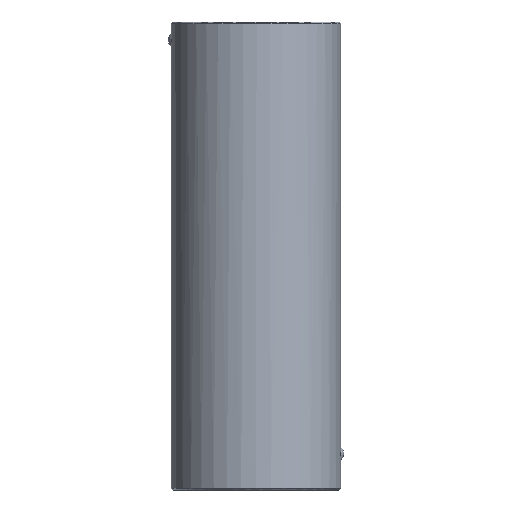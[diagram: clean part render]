
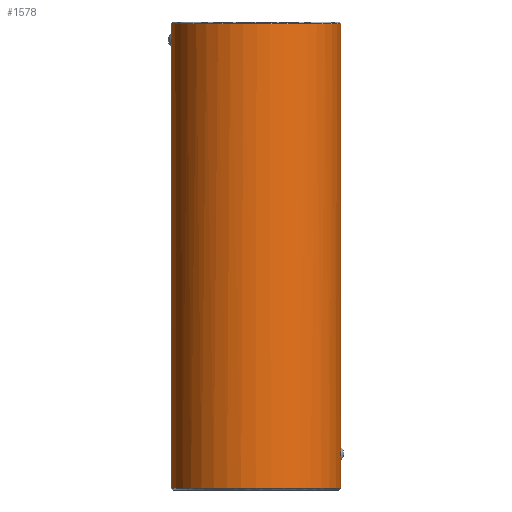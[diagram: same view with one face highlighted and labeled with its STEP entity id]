
A CAD part, front view. The second image highlights one B-rep face of the part: STEP entity #1578.
In plain terms, the highlighted cylindrical face has radius 14.5 mm (diameter 29 mm), a partial arc.
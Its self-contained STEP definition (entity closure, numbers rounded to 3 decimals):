
#1348=CARTESIAN_POINT('Vertex',(-14.5,0.,0.3)) ;
#1355=CARTESIAN_POINT('Vertex',(14.5,0.,0.3)) ;
#1358=CARTESIAN_POINT('Axis2P3D Location',(0.,0.,0.3)) ;
#1476=CARTESIAN_POINT('Axis2P3D Location',(0.,0.,80.)) ;
#1481=CARTESIAN_POINT('Line Origine',(14.5,0.,80.)) ;
#1485=CARTESIAN_POINT('Vertex',(14.5,0.,5.082)) ;
#1489=CARTESIAN_POINT('Control Point',(14.454,-1.158,6.201)) ;
#1490=CARTESIAN_POINT('Control Point',(14.454,-1.158,5.843)) ;
#1491=CARTESIAN_POINT('Control Point',(14.466,-1.009,5.481)) ;
#1492=CARTESIAN_POINT('Control Point',(14.489,-0.712,5.214)) ;
#1493=CARTESIAN_POINT('Control Point',(14.5,-0.358,5.082)) ;
#1494=CARTESIAN_POINT('Control Point',(14.5,0.,5.082)) ;
#1495=CARTESIAN_POINT('Vertex',(14.454,-1.158,6.201)) ;
#1499=CARTESIAN_POINT('Control Point',(14.5,0.,7.318)) ;
#1500=CARTESIAN_POINT('Control Point',(14.5,-0.358,7.318)) ;
#1501=CARTESIAN_POINT('Control Point',(14.489,-0.717,7.185)) ;
#1502=CARTESIAN_POINT('Control Point',(14.466,-1.009,6.916)) ;
#1503=CARTESIAN_POINT('Control Point',(14.454,-1.158,6.558)) ;
#1504=CARTESIAN_POINT('Control Point',(14.454,-1.158,6.201)) ;
#1505=CARTESIAN_POINT('Vertex',(14.5,0.,7.318)) ;
#1508=CARTESIAN_POINT('Line Origine',(14.5,0.,80.)) ;
#1512=CARTESIAN_POINT('Vertex',(14.5,0.,79.7)) ;
#1516=CARTESIAN_POINT('Control Point',(-14.5,0.,79.7)) ;
#1517=CARTESIAN_POINT('Control Point',(-14.5,-2.278,79.7)) ;
#1518=CARTESIAN_POINT('Control Point',(-14.053,-4.555,79.7)) ;
#1519=CARTESIAN_POINT('Control Point',(-13.158,-6.716,79.7)) ;
#1520=CARTESIAN_POINT('Control Point',(-10.569,-10.569,79.7)) ;
#1521=CARTESIAN_POINT('Control Point',(-6.716,-13.158,79.7)) ;
#1522=CARTESIAN_POINT('Control Point',(-4.555,-14.053,79.7)) ;
#1523=CARTESIAN_POINT('Control Point',(0.,-14.947,79.7)) ;
#1524=CARTESIAN_POINT('Control Point',(4.555,-14.053,79.7)) ;
#1525=CARTESIAN_POINT('Control Point',(6.716,-13.158,79.7)) ;
#1526=CARTESIAN_POINT('Control Point',(10.569,-10.569,79.7)) ;
#1527=CARTESIAN_POINT('Control Point',(13.158,-6.716,79.7)) ;
#1528=CARTESIAN_POINT('Control Point',(14.053,-4.555,79.7)) ;
#1529=CARTESIAN_POINT('Control Point',(14.5,-2.278,79.7)) ;
#1530=CARTESIAN_POINT('Control Point',(14.5,0.,79.7)) ;
#1531=CARTESIAN_POINT('Vertex',(-14.5,0.,79.7)) ;
#1534=CARTESIAN_POINT('Line Origine',(-14.5,0.,80.)) ;
#1538=CARTESIAN_POINT('Vertex',(-14.5,0.,78.018)) ;
#1542=CARTESIAN_POINT('Control Point',(-14.454,-1.158,76.899)) ;
#1543=CARTESIAN_POINT('Control Point',(-14.454,-1.158,77.257)) ;
#1544=CARTESIAN_POINT('Control Point',(-14.466,-1.009,77.619)) ;
#1545=CARTESIAN_POINT('Control Point',(-14.489,-0.712,77.886)) ;
#1546=CARTESIAN_POINT('Control Point',(-14.5,-0.358,78.018)) ;
#1547=CARTESIAN_POINT('Control Point',(-14.5,0.,78.018)) ;
#1548=CARTESIAN_POINT('Vertex',(-14.454,-1.158,76.899)) ;
#1552=CARTESIAN_POINT('Control Point',(-14.5,0.,75.782)) ;
#1553=CARTESIAN_POINT('Control Point',(-14.5,-0.358,75.782)) ;
#1554=CARTESIAN_POINT('Control Point',(-14.489,-0.717,75.915)) ;
#1555=CARTESIAN_POINT('Control Point',(-14.466,-1.009,76.184)) ;
#1556=CARTESIAN_POINT('Control Point',(-14.454,-1.158,76.542)) ;
#1557=CARTESIAN_POINT('Control Point',(-14.454,-1.158,76.899)) ;
#1558=CARTESIAN_POINT('Vertex',(-14.5,0.,75.782)) ;
#1561=CARTESIAN_POINT('Line Origine',(-14.5,0.,80.)) ;
#1359=DIRECTION('Axis2P3D Direction',(0.,-0.,1.)) ;
#1477=DIRECTION('Axis2P3D Direction',(0.,0.,-1.)) ;
#1478=DIRECTION('Axis2P3D XDirection',(1.,0.,0.)) ;
#1482=DIRECTION('Vector Direction',(0.,0.,-1.)) ;
#1509=DIRECTION('Vector Direction',(0.,0.,-1.)) ;
#1535=DIRECTION('Vector Direction',(0.,0.,-1.)) ;
#1562=DIRECTION('Vector Direction',(0.,0.,-1.)) ;
#1360=AXIS2_PLACEMENT_3D('Circle Axis2P3D',#1358,#1359,$) ;
#1479=AXIS2_PLACEMENT_3D('Cylinder Axis2P3D',#1476,#1477,#1478) ;
#1567=ORIENTED_EDGE('',*,*,#1487,.T.) ;
#1568=ORIENTED_EDGE('',*,*,#1497,.F.) ;
#1569=ORIENTED_EDGE('',*,*,#1507,.F.) ;
#1570=ORIENTED_EDGE('',*,*,#1514,.T.) ;
#1571=ORIENTED_EDGE('',*,*,#1533,.F.) ;
#1572=ORIENTED_EDGE('',*,*,#1540,.T.) ;
#1573=ORIENTED_EDGE('',*,*,#1550,.F.) ;
#1574=ORIENTED_EDGE('',*,*,#1560,.F.) ;
#1575=ORIENTED_EDGE('',*,*,#1565,.T.) ;
#1576=ORIENTED_EDGE('',*,*,#1362,.T.) ;
#1483=VECTOR('Line Direction',#1482,1.) ;
#1510=VECTOR('Line Direction',#1509,1.) ;
#1536=VECTOR('Line Direction',#1535,1.) ;
#1563=VECTOR('Line Direction',#1562,1.) ;
#1578=ADVANCED_FACE('730-24x80',(#1577),#1480,.T.) ;
#1488=B_SPLINE_CURVE_WITH_KNOTS('',5,(#1489,#1490,#1491,#1492,#1493,#1494),.UNSPECIFIED.,.F.,.U.,(6,6),(0.,2.538),.UNSPECIFIED.) ;
#1498=B_SPLINE_CURVE_WITH_KNOTS('',5,(#1499,#1500,#1501,#1502,#1503,#1504),.UNSPECIFIED.,.F.,.U.,(6,6),(0.,2.539),.UNSPECIFIED.) ;
#1515=B_SPLINE_CURVE_WITH_KNOTS('',5,(#1516,#1517,#1518,#1519,#1520,#1521,#1522,#1523,#1524,#1525,#1526,#1527,#1528,#1529,#1530),.UNSPECIFIED.,.F.,.U.,(6,3,3,3,6),(-22.777,-11.388,0.,11.388,22.777),.UNSPECIFIED.) ;
#1541=B_SPLINE_CURVE_WITH_KNOTS('',5,(#1542,#1543,#1544,#1545,#1546,#1547),.UNSPECIFIED.,.F.,.U.,(6,6),(0.,2.538),.UNSPECIFIED.) ;
#1551=B_SPLINE_CURVE_WITH_KNOTS('',5,(#1552,#1553,#1554,#1555,#1556,#1557),.UNSPECIFIED.,.F.,.U.,(6,6),(0.,2.539),.UNSPECIFIED.) ;
#1361=CIRCLE('generated circle',#1360,14.5) ;
#1480=CYLINDRICAL_SURFACE('generated cylinder',#1479,14.5) ;
#1362=EDGE_CURVE('',#1349,#1356,#1361,.T.) ;
#1487=EDGE_CURVE('',#1356,#1486,#1484,.F.) ;
#1497=EDGE_CURVE('',#1496,#1486,#1488,.T.) ;
#1507=EDGE_CURVE('',#1506,#1496,#1498,.T.) ;
#1514=EDGE_CURVE('',#1506,#1513,#1511,.F.) ;
#1533=EDGE_CURVE('',#1532,#1513,#1515,.T.) ;
#1540=EDGE_CURVE('',#1532,#1539,#1537,.T.) ;
#1550=EDGE_CURVE('',#1549,#1539,#1541,.T.) ;
#1560=EDGE_CURVE('',#1559,#1549,#1551,.T.) ;
#1565=EDGE_CURVE('',#1559,#1349,#1564,.T.) ;
#1566=EDGE_LOOP('',(#1567,#1568,#1569,#1570,#1571,#1572,#1573,#1574,#1575,#1576)) ;
#1577=FACE_OUTER_BOUND('',#1566,.T.) ;
#1484=LINE('Line',#1481,#1483) ;
#1511=LINE('Line',#1508,#1510) ;
#1537=LINE('Line',#1534,#1536) ;
#1564=LINE('Line',#1561,#1563) ;
#1349=VERTEX_POINT('',#1348) ;
#1356=VERTEX_POINT('',#1355) ;
#1486=VERTEX_POINT('',#1485) ;
#1496=VERTEX_POINT('',#1495) ;
#1506=VERTEX_POINT('',#1505) ;
#1513=VERTEX_POINT('',#1512) ;
#1532=VERTEX_POINT('',#1531) ;
#1539=VERTEX_POINT('',#1538) ;
#1549=VERTEX_POINT('',#1548) ;
#1559=VERTEX_POINT('',#1558) ;
